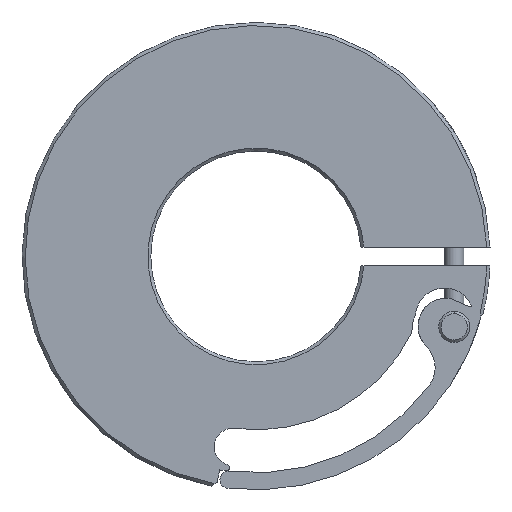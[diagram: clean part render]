
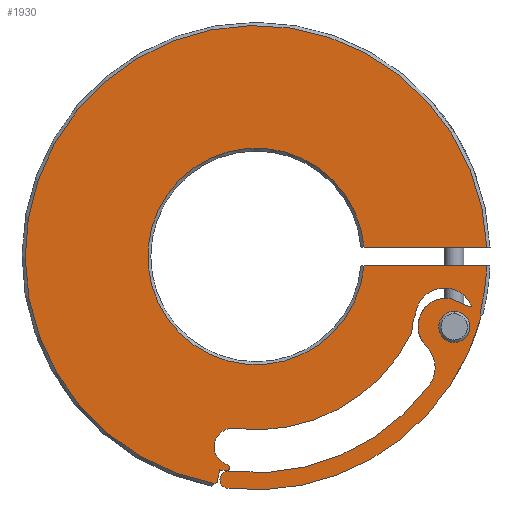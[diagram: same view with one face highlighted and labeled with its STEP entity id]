
A CAD part, front view. The second image highlights one B-rep face of the part: STEP entity #1930.
In plain terms, the highlighted planar face has unit normal (0, -1, 0).
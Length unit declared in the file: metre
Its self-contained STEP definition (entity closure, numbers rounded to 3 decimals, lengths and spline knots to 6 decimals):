
#318=CARTESIAN_POINT('',(-0.04616,0.005306,
0.029762));
#320=CARTESIAN_POINT('',(-0.052796,0.005306,
0.026042));
#321=DIRECTION('',(0.,-1.,0.));
#322=DIRECTION('',(0.057,0.,0.998));
#323=AXIS2_PLACEMENT_3D('',#320,#321,#322);
#325=CARTESIAN_POINT('',(-0.052796,0.005306,
0.026042));
#326=DIRECTION('',(0.,-1.,0.));
#327=DIRECTION('',(-0.057,0.,-0.998));
#328=AXIS2_PLACEMENT_3D('',#325,#326,#327);
#330=CARTESIAN_POINT('',(-0.048425,0.005306,
0.028762));
#331=DIRECTION('',(0.,1.,0.));
#332=DIRECTION('',(-0.178,0.,0.984));
#333=AXIS2_PLACEMENT_3D('',#330,#331,#332);
#335=CARTESIAN_POINT('',(-0.056673,0.005306,
0.024663));
#336=DIRECTION('',(0.,-1.,0.));
#337=DIRECTION('',(0.788,0.,0.616));
#338=AXIS2_PLACEMENT_3D('',#335,#336,#337);
#340=CARTESIAN_POINT('',(-0.055282,0.005306,
0.028534));
#341=DIRECTION('',(0.,-1.,0.));
#342=DIRECTION('',(0.927,0.,0.375));
#343=AXIS2_PLACEMENT_3D('',#340,#341,#342);
#345=CARTESIAN_POINT('',(-0.05426,0.005306,
0.025171));
#346=DIRECTION('',(0.,-1.,0.));
#347=DIRECTION('',(-0.901,0.,0.435));
#348=AXIS2_PLACEMENT_3D('',#345,#346,#347);
#350=CARTESIAN_POINT('',(-0.103583,0.005306,
0.044104));
#351=DIRECTION('',(0.,1.,0.));
#352=DIRECTION('',(0.899,0.,-0.439));
#353=AXIS2_PLACEMENT_3D('',#350,#351,#352);
#355=CARTESIAN_POINT('',(-0.109579,0.005306,
-0.004729));
#356=DIRECTION('',(0.,-1.,0.));
#357=DIRECTION('',(0.053,0.,0.999));
#358=AXIS2_PLACEMENT_3D('',#355,#356,#357);
#360=CARTESIAN_POINT('',(-0.111195,0.005306,
-0.010058));
#361=DIRECTION('',(0.,1.,0.));
#362=DIRECTION('',(0.29,0.,0.957));
#363=AXIS2_PLACEMENT_3D('',#360,#361,#362);
#365=CARTESIAN_POINT('',(-0.103583,0.005306,
0.044104));
#366=DIRECTION('',(0.,1.,0.));
#367=DIRECTION('',(-0.138,0.,-0.99));
#368=AXIS2_PLACEMENT_3D('',#365,#366,#367);
#370=DIRECTION('',(-0.199,0.,-0.98));
#371=VECTOR('',#370,0.003233);
#372=CARTESIAN_POINT('',(-0.112916,0.005306,
-0.010605));
#373=LINE('',#372,#371);
#374=DIRECTION('',(-0.834,0.,-0.552));
#375=VECTOR('',#374,0.000663);
#376=CARTESIAN_POINT('',(-0.11356,0.005306,
-0.013773));
#377=LINE('',#376,#375);
#378=CARTESIAN_POINT('',(-0.103583,0.005306,
0.044104));
#379=DIRECTION('',(0.,1.,0.));
#380=DIRECTION('',(-0.178,0.,-0.984));
#381=AXIS2_PLACEMENT_3D('',#378,#379,#380);
#383=DIRECTION('',(-1.,0.,0.));
#384=VECTOR('',#383,0.031479);
#385=CARTESIAN_POINT('',(-0.044444,0.005306,
0.046485));
#386=LINE('',#385,#384);
#387=CARTESIAN_POINT('',(-0.103583,0.005306,
0.044104));
#388=DIRECTION('',(0.,-1.,0.));
#389=DIRECTION('',(0.996,0.,0.086));
#390=AXIS2_PLACEMENT_3D('',#387,#388,#389);
#392=CARTESIAN_POINT('',(-0.103583,0.005306,
0.044104));
#393=DIRECTION('',(0.,1.,0.));
#394=DIRECTION('',(0.999,0.,-0.04));
#395=AXIS2_PLACEMENT_3D('',#392,#393,#394);
#397=CARTESIAN_POINT('',(-0.048425,0.005306,
0.028762));
#398=DIRECTION('',(0.,1.,0.));
#399=DIRECTION('',(0.915,0.,0.404));
#400=AXIS2_PLACEMENT_3D('',#397,#398,#399);
#402=CARTESIAN_POINT('',(-0.103818,0.005306,
0.044272));
#403=DIRECTION('',(0.,1.,0.));
#404=DIRECTION('',(0.963,0.,-0.27));
#405=AXIS2_PLACEMENT_3D('',#402,#403,#404);
#407=CARTESIAN_POINT('',(-0.110657,0.005306,
-0.013137));
#408=DIRECTION('',(0.,1.,0.));
#409=DIRECTION('',(-0.057,0.,-0.998));
#410=AXIS2_PLACEMENT_3D('',#407,#408,#409);
#412=CARTESIAN_POINT('',(-0.103818,0.005306,
0.044272));
#413=DIRECTION('',(0.,-1.,0.));
#414=DIRECTION('',(-0.118,0.,-0.993));
#415=AXIS2_PLACEMENT_3D('',#412,#413,#414);
#417=CARTESIAN_POINT('',(-0.065305,0.005306,
0.015613));
#418=DIRECTION('',(0.,-1.,0.));
#419=DIRECTION('',(0.802,0.,-0.597));
#420=AXIS2_PLACEMENT_3D('',#417,#418,#419);
#422=CARTESIAN_POINT('',(-0.054838,0.005306,
0.026159));
#423=DIRECTION('',(0.,1.,0.));
#424=DIRECTION('',(-0.704,0.,-0.71));
#425=AXIS2_PLACEMENT_3D('',#422,#423,#424);
#427=DIRECTION('',(0.918,0.,-0.395));
#428=VECTOR('',#427,0.005374);
#429=CARTESIAN_POINT('',(-0.053802,0.005306,
0.033324));
#430=LINE('',#429,#428);
#753=CARTESIAN_POINT('',(-0.044444,0.005306,
0.041723));
#755=DIRECTION('',(-1.,0.,0.));
#756=VECTOR('',#755,0.031479);
#757=CARTESIAN_POINT('',(-0.044444,0.005306,
0.041723));
#758=LINE('',#757,#756);
#890=CARTESIAN_POINT('',(-0.075923,0.005306,
0.046485));
#924=CARTESIAN_POINT('',(-0.114113,0.005306,
-0.014139));
#1361=CARTESIAN_POINT('',(-0.053802,0.005306,
0.033324));
#1362=VERTEX_POINT('',#1361);
#1363=CARTESIAN_POINT('',(-0.059937,0.005306,
0.021022));
#1364=VERTEX_POINT('',#1363);
#1371=CARTESIAN_POINT('',(-0.052566,0.005306,
0.030035));
#1372=CARTESIAN_POINT('',(-0.053025,0.005306,
0.022049));
#1373=VERTEX_POINT('',#1371);
#1374=VERTEX_POINT('',#1372);
#1375=CARTESIAN_POINT('',(-0.048866,0.005306,
0.031199));
#1376=VERTEX_POINT('',#1375);
#1377=CARTESIAN_POINT('',(-0.059192,0.005306,
0.011064));
#1378=VERTEX_POINT('',#1377);
#1383=CARTESIAN_POINT('',(-0.046041,0.005306,
0.028094));
#1384=CARTESIAN_POINT('',(-0.110783,0.005306,
-0.015323));
#1385=VERTEX_POINT('',#1383);
#1386=VERTEX_POINT('',#1384);
#1415=CARTESIAN_POINT('',(-0.110398,0.005306,
-0.010964));
#1416=VERTEX_POINT('',#1415);
#1431=VERTEX_POINT('',#890);
#1432=CARTESIAN_POINT('',(-0.044444,0.005306,
0.046485));
#1433=VERTEX_POINT('',#1432);
#1469=VERTEX_POINT('',#924);
#1470=CARTESIAN_POINT('',(-0.11356,0.005306,
-0.013773));
#1471=VERTEX_POINT('',#1470);
#1472=CARTESIAN_POINT('',(-0.062724,0.005306,
0.029255));
#1473=CARTESIAN_POINT('',(-0.063641,0.005306,
0.0246));
#1474=VERTEX_POINT('',#1472);
#1475=VERTEX_POINT('',#1473);
#1476=CARTESIAN_POINT('',(-0.109328,0.005306,
0.000027));
#1477=CARTESIAN_POINT('',(-0.110961,0.005306,
-0.009287));
#1478=VERTEX_POINT('',#1476);
#1479=VERTEX_POINT('',#1477);
#1480=CARTESIAN_POINT('',(-0.111247,0.005306,
-0.010863));
#1481=CARTESIAN_POINT('',(-0.112916,0.005306,
-0.010605));
#1482=VERTEX_POINT('',#1480);
#1483=VERTEX_POINT('',#1481);
#1485=CARTESIAN_POINT('',(-0.048351,0.005306,
0.031338));
#1487=VERTEX_POINT('',#1485);
#1503=VERTEX_POINT('',#753);
#1504=CARTESIAN_POINT('',(-0.075923,0.005306,
0.041723));
#1505=VERTEX_POINT('',#1504);
#1573=CARTESIAN_POINT('',(-0.048269,0.005306,
0.031234));
#1574=VERTEX_POINT('',#1573);
#1577=VERTEX_POINT('',#318);
#1876=CARTESIAN_POINT('',(-0.079341,0.005306,
0.008777));
#1877=DIRECTION('',(0.,1.,0.));
#1878=DIRECTION('',(-0.057,0.,-0.998));
#1879=AXIS2_PLACEMENT_3D('',#1876,#1877,#1878);
#1880=PLANE('',#1879);
#1881=ORIENTED_EDGE('',*,*,#1852,.T.);
#1882=ORIENTED_EDGE('',*,*,#1784,.T.);
#1884=ORIENTED_EDGE('',*,*,#1883,.T.);
#1886=ORIENTED_EDGE('',*,*,#1885,.T.);
#1888=ORIENTED_EDGE('',*,*,#1887,.T.);
#1890=ORIENTED_EDGE('',*,*,#1889,.T.);
#1892=ORIENTED_EDGE('',*,*,#1891,.T.);
#1894=ORIENTED_EDGE('',*,*,#1893,.T.);
#1896=ORIENTED_EDGE('',*,*,#1895,.T.);
#1898=ORIENTED_EDGE('',*,*,#1897,.T.);
#1900=ORIENTED_EDGE('',*,*,#1899,.T.);
#1902=ORIENTED_EDGE('',*,*,#1901,.T.);
#1904=ORIENTED_EDGE('',*,*,#1903,.T.);
#1906=ORIENTED_EDGE('',*,*,#1905,.F.);
#1908=ORIENTED_EDGE('',*,*,#1907,.T.);
#1909=ORIENTED_EDGE('',*,*,#1869,.T.);
#1911=ORIENTED_EDGE('',*,*,#1910,.T.);
#1913=ORIENTED_EDGE('',*,*,#1912,.T.);
#1915=ORIENTED_EDGE('',*,*,#1914,.T.);
#1917=ORIENTED_EDGE('',*,*,#1916,.T.);
#1919=ORIENTED_EDGE('',*,*,#1918,.T.);
#1921=ORIENTED_EDGE('',*,*,#1920,.T.);
#1922=EDGE_LOOP('',(#1881,#1882,#1884,#1886,#1888,#1890,#1892,#1894,#1896,#1898,
#1900,#1902,#1904,#1906,#1908,#1909,#1911,#1913,#1915,#1917,#1919,#1921));
#1923=FACE_OUTER_BOUND('',#1922,.F.);
#1925=ORIENTED_EDGE('',*,*,#1924,.T.);
#1927=ORIENTED_EDGE('',*,*,#1926,.T.);
#1928=EDGE_LOOP('',(#1925,#1927));
#1929=FACE_BOUND('',#1928,.F.);
#324=CIRCLE('',#323,0.004);
#329=CIRCLE('',#328,0.004);
#334=CIRCLE('',#333,0.002476);
#339=CIRCLE('',#338,0.010668);
#344=CIRCLE('',#343,0.007477);
#349=CIRCLE('',#348,0.009398);
#354=CIRCLE('',#353,0.04445);
#359=CIRCLE('',#358,0.004763);
#364=CIRCLE('',#363,0.000807);
#369=CIRCLE('',#368,0.055499);
#382=CIRCLE('',#381,0.059187);
#391=CIRCLE('',#390,0.027762);
#396=CIRCLE('',#395,0.059187);
#401=CIRCLE('',#400,0.002476);
#406=CIRCLE('',#405,0.06);
#411=CIRCLE('',#410,0.002189);
#416=CIRCLE('',#415,0.055626);
#421=CIRCLE('',#420,0.00762);
#426=CIRCLE('',#425,0.007239);
#1784=EDGE_CURVE('',#1574,#1487,#339,.T.);
#1852=EDGE_CURVE('',#1376,#1574,#334,.T.);
#1869=EDGE_CURVE('',#1577,#1385,#401,.T.);
#1883=EDGE_CURVE('',#1487,#1474,#344,.T.);
#1885=EDGE_CURVE('',#1474,#1475,#349,.T.);
#1887=EDGE_CURVE('',#1475,#1478,#354,.T.);
#1889=EDGE_CURVE('',#1478,#1479,#359,.T.);
#1891=EDGE_CURVE('',#1479,#1482,#364,.T.);
#1893=EDGE_CURVE('',#1482,#1483,#369,.T.);
#1895=EDGE_CURVE('',#1483,#1471,#373,.T.);
#1897=EDGE_CURVE('',#1471,#1469,#377,.T.);
#1899=EDGE_CURVE('',#1469,#1433,#382,.T.);
#1901=EDGE_CURVE('',#1433,#1431,#386,.T.);
#1903=EDGE_CURVE('',#1431,#1505,#391,.T.);
#1905=EDGE_CURVE('',#1503,#1505,#758,.T.);
#1907=EDGE_CURVE('',#1503,#1577,#396,.T.);
#1910=EDGE_CURVE('',#1385,#1386,#406,.T.);
#1912=EDGE_CURVE('',#1386,#1416,#411,.T.);
#1914=EDGE_CURVE('',#1416,#1378,#416,.T.);
#1916=EDGE_CURVE('',#1378,#1364,#421,.T.);
#1918=EDGE_CURVE('',#1364,#1362,#426,.T.);
#1920=EDGE_CURVE('',#1362,#1376,#430,.T.);
#1924=EDGE_CURVE('',#1373,#1374,#324,.T.);
#1926=EDGE_CURVE('',#1374,#1373,#329,.T.);
#1930=ADVANCED_FACE('',(#1923,#1929),#1880,.F.);
